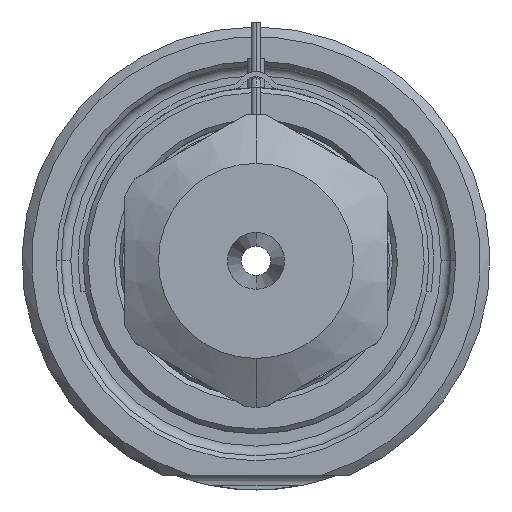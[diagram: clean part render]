
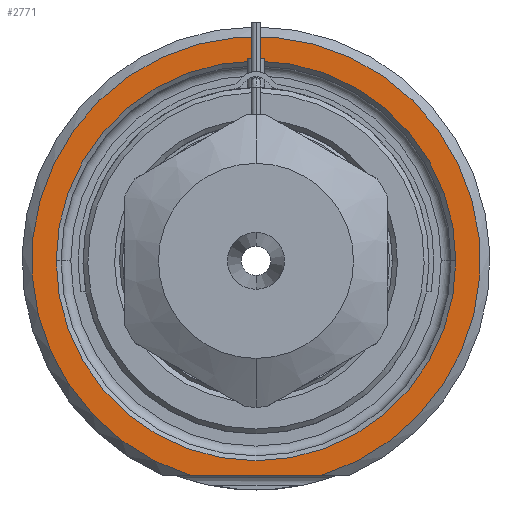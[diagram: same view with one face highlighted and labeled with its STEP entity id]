
A CAD part, front view. The second image highlights one B-rep face of the part: STEP entity #2771.
In plain terms, the highlighted planar face has unit normal (0, -1, 0).
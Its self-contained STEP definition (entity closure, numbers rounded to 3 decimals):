
#1=DIRECTION('',(1.,0.,0.));
#2=VECTOR('',#1,13.416);
#3=CARTESIAN_POINT('',(-6.708,0.,-22.));
#4=LINE('',#3,#2);
#5=CARTESIAN_POINT('',(0.,0.,0.));
#6=DIRECTION('',(0.,1.,0.));
#7=DIRECTION('',(-1.,0.,0.));
#8=AXIS2_PLACEMENT_3D('',#5,#6,#7);
#10=CARTESIAN_POINT('',(0.,0.,0.));
#11=DIRECTION('',(0.,1.,0.));
#12=DIRECTION('',(1.,0.,0.));
#13=AXIS2_PLACEMENT_3D('',#10,#11,#12);
#121=CARTESIAN_POINT('',(0.,0.,0.));
#122=DIRECTION('',(0.,-1.,0.));
#123=DIRECTION('',(0.292,0.,-0.957));
#124=AXIS2_PLACEMENT_3D('',#121,#122,#123);
#2295=CARTESIAN_POINT('',(-20.5,0.,0.));
#2296=CARTESIAN_POINT('',(20.5,0.,0.));
#2297=VERTEX_POINT('',#2295);
#2298=VERTEX_POINT('',#2296);
#2335=CARTESIAN_POINT('',(-6.708,0.,-22.));
#2336=CARTESIAN_POINT('',(6.708,0.,-22.));
#2337=VERTEX_POINT('',#2335);
#2338=VERTEX_POINT('',#2336);
#2754=CARTESIAN_POINT('',(0.,0.,0.));
#2755=DIRECTION('',(0.,-1.,0.));
#2756=DIRECTION('',(1.,0.,0.));
#2757=AXIS2_PLACEMENT_3D('',#2754,#2755,#2756);
#2758=PLANE('',#2757);
#2760=ORIENTED_EDGE('',*,*,#2759,.F.);
#2762=ORIENTED_EDGE('',*,*,#2761,.F.);
#2763=EDGE_LOOP('',(#2760,#2762));
#2764=FACE_OUTER_BOUND('',#2763,.F.);
#2766=ORIENTED_EDGE('',*,*,#2765,.F.);
#2768=ORIENTED_EDGE('',*,*,#2767,.F.);
#2769=EDGE_LOOP('',(#2766,#2768));
#2770=FACE_BOUND('',#2769,.F.);
#2771=ADVANCED_FACE('',(#2764,#2770),#2758,.T.);
#9=CIRCLE('',#8,20.5);
#14=CIRCLE('',#13,20.5);
#125=CIRCLE('',#124,23.);
#2759=EDGE_CURVE('',#2337,#2338,#4,.T.);
#2761=EDGE_CURVE('',#2338,#2337,#125,.T.);
#2765=EDGE_CURVE('',#2297,#2298,#9,.T.);
#2767=EDGE_CURVE('',#2298,#2297,#14,.T.);
